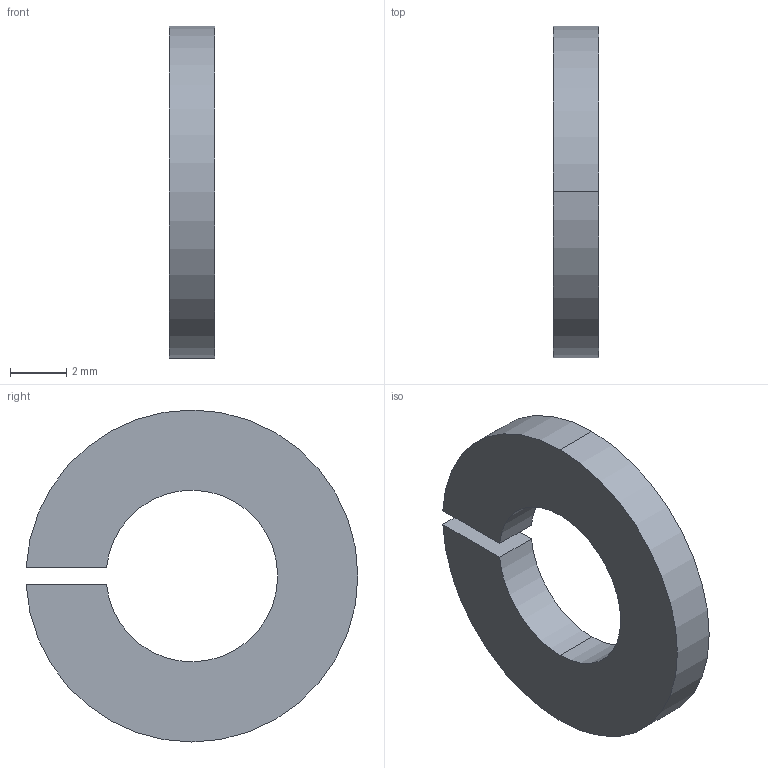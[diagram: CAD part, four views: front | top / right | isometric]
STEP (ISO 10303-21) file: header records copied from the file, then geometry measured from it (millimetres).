
FILE_DESCRIPTION (( 'STEP AP214' ), '1' );
FILE_NAME ('N600052_0_stp_Federring_B6_DIN127.STEP', '2018-07-04T06:09:33', ( '' ), ( '' ), 'SwSTEP 2.0', 'SolidWorks 2017', '' );
FILE_SCHEMA (( 'AUTOMOTIVE_DESIGN' ));
Length unit declared in the file: millimetre
Products named in the file (1): N600052_0_stp_Federring_B6_DIN127
Bounding box: 1.6 x 11.79 x 11.8 mm (x, y, z)
Volume: 125.5 mm3; surface area: 254 mm2
Topology: 1 solids, 1 shells, 10 faces, 24 edges, 16 vertices
Faces by surface type: cylinder 6, plane 4
Entity records: 334 total; most frequent: DIRECTION 58, CARTESIAN_POINT 51, ORIENTED_EDGE 48, EDGE_CURVE 24, AXIS2_PLACEMENT_3D 23, VERTEX_POINT 16, CIRCLE 12, LINE 12
